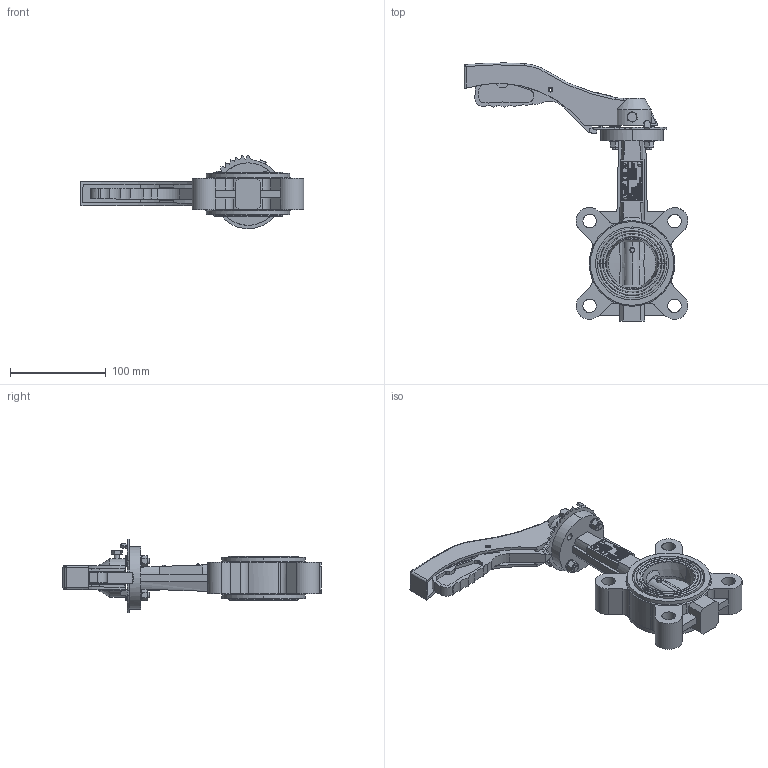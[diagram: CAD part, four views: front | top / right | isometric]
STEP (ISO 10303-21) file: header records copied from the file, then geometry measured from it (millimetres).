
FILE_DESCRIPTION (( 'STEP AP214' ), '1' );
FILE_NAME ('VPG464X-02XX0050VPG464X-02XX0050--.step', '2022-05-19T10:11:20', ( '' ), ( '' ), 'SwSTEP 2.0', 'SolidWorks 2020', '' );
FILE_SCHEMA (( 'AUTOMOTIVE_DESIGN' ));
Length unit declared in the file: millimetre
Products named in the file (1): VPG464X-02XX0050VPG464X-02XX0050--
Bounding box: 233.22 x 268.93 x 76.32 mm (x, y, z)
Surface area: 127918.5 mm2 (no closed solid volume)
Topology: 0 solids, 84 shells, 761 faces, 5419 edges, 4706 vertices
Faces by surface type: plane 452, cylinder 159, bspline 98, cone 47, torus 5
Entity records: 79337 total; most frequent: CARTESIAN_POINT 34190, ORIENTED_EDGE 6871, DIRECTION 5907, EDGE_CURVE 5411, VERTEX_POINT 4706, VECTOR 3609, LINE 3609, B_SPLINE_CURVE_WITH_KNOTS 1287
